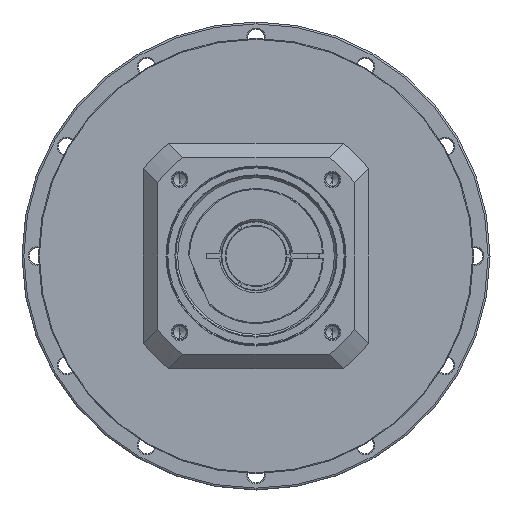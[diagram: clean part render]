
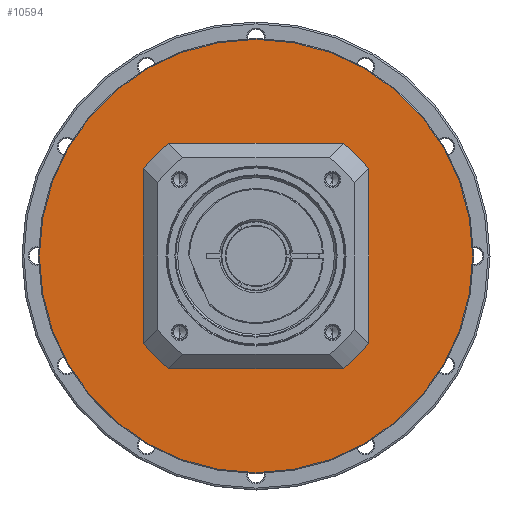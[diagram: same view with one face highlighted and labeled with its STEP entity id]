
A CAD part, left-side view. The second image highlights one B-rep face of the part: STEP entity #10594.
In plain terms, the highlighted planar face has unit normal (-1, 0, 0) as drawn and (1, 0, 0) by its records, which use the part's own axes.
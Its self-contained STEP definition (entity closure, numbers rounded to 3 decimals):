
#9625=CARTESIAN_POINT('',(-4.5,0.,0.));
#9626=DIRECTION('',(-1.,0.,0.));
#9627=DIRECTION('',(0.,-1.,0.));
#9628=AXIS2_PLACEMENT_3D('',#9625,#9626,#9627);
#9630=CARTESIAN_POINT('',(-4.5,0.,0.));
#9631=DIRECTION('',(-1.,0.,0.));
#9632=DIRECTION('',(0.,1.,0.));
#9633=AXIS2_PLACEMENT_3D('',#9630,#9631,#9632);
#9635=CARTESIAN_POINT('',(-4.5,0.,0.));
#9636=DIRECTION('',(-1.,0.,0.));
#9637=DIRECTION('',(0.,-1.,0.));
#9638=AXIS2_PLACEMENT_3D('',#9635,#9636,#9637);
#9640=CARTESIAN_POINT('',(-4.5,0.,0.));
#9641=DIRECTION('',(-1.,0.,0.));
#9642=DIRECTION('',(0.,1.,0.));
#9643=AXIS2_PLACEMENT_3D('',#9640,#9641,#9642);
#9887=CARTESIAN_POINT('',(-4.5,-115.5,0.));
#9888=CARTESIAN_POINT('',(-4.5,115.5,0.));
#9889=VERTEX_POINT('',#9887);
#9890=VERTEX_POINT('',#9888);
#9945=CARTESIAN_POINT('',(-4.5,-59.75,0.));
#9946=CARTESIAN_POINT('',(-4.5,59.75,0.));
#9947=VERTEX_POINT('',#9945);
#9948=VERTEX_POINT('',#9946);
#10579=CARTESIAN_POINT('',(-4.5,0.,0.));
#10580=DIRECTION('',(1.,0.,0.));
#10581=DIRECTION('',(0.,-1.,0.));
#10582=AXIS2_PLACEMENT_3D('',#10579,#10580,#10581);
#10583=PLANE('',#10582);
#10584=ORIENTED_EDGE('',*,*,#10535,.T.);
#10585=ORIENTED_EDGE('',*,*,#10520,.T.);
#10586=EDGE_LOOP('',(#10584,#10585));
#10587=FACE_OUTER_BOUND('',#10586,.F.);
#10589=ORIENTED_EDGE('',*,*,#10588,.F.);
#10591=ORIENTED_EDGE('',*,*,#10590,.F.);
#10592=EDGE_LOOP('',(#10589,#10591));
#10593=FACE_BOUND('',#10592,.F.);
#10594=ADVANCED_FACE('',(#10587,#10593),#10583,.T.);
#9629=CIRCLE('',#9628,59.75);
#9634=CIRCLE('',#9633,59.75);
#9639=CIRCLE('',#9638,115.5);
#9644=CIRCLE('',#9643,115.5);
#10520=EDGE_CURVE('',#9890,#9889,#9644,.T.);
#10535=EDGE_CURVE('',#9889,#9890,#9639,.T.);
#10588=EDGE_CURVE('',#9947,#9948,#9629,.T.);
#10590=EDGE_CURVE('',#9948,#9947,#9634,.T.);
